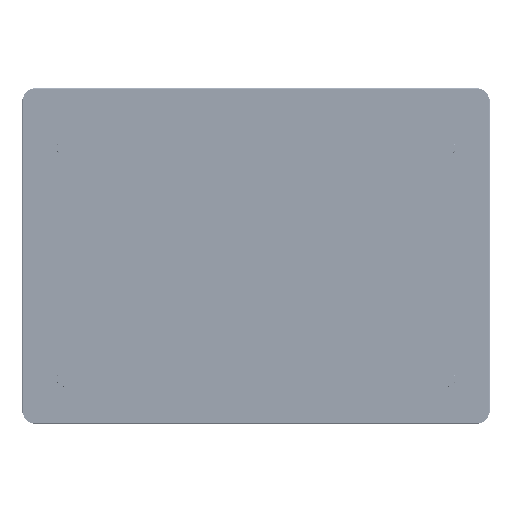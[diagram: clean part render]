
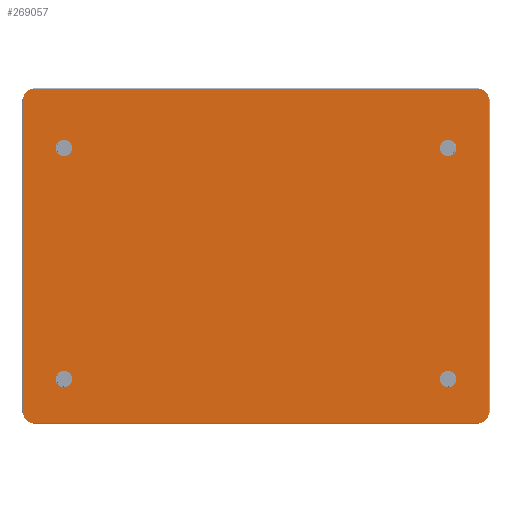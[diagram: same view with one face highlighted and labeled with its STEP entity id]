
A CAD part, top view. The second image highlights one B-rep face of the part: STEP entity #269057.
In plain terms, the highlighted planar face has unit normal (0, 0, 1).
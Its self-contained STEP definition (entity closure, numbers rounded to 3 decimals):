
#268338=CARTESIAN_POINT('',(-135.7,-95.7,0.));
#268339=DIRECTION('',(0.,0.,1.));
#268340=DIRECTION('',(-1.,0.,0.));
#268341=AXIS2_PLACEMENT_3D('',#268338,#268339,#268340);
#268343=CARTESIAN_POINT('',(-135.7,95.7,0.));
#268344=DIRECTION('',(0.,0.,1.));
#268345=DIRECTION('',(0.,1.,0.));
#268346=AXIS2_PLACEMENT_3D('',#268343,#268344,#268345);
#268348=CARTESIAN_POINT('',(135.7,95.7,0.));
#268349=DIRECTION('',(0.,0.,1.));
#268350=DIRECTION('',(1.,0.,0.));
#268351=AXIS2_PLACEMENT_3D('',#268348,#268349,#268350);
#268353=CARTESIAN_POINT('',(135.7,-95.7,0.));
#268354=DIRECTION('',(0.,0.,1.));
#268355=DIRECTION('',(0.,-1.,0.));
#268356=AXIS2_PLACEMENT_3D('',#268353,#268354,#268355);
#268358=CARTESIAN_POINT('',(-117.,65.75,0.));
#268359=DIRECTION('',(0.,0.,1.));
#268360=DIRECTION('',(-1.,0.,0.));
#268361=AXIS2_PLACEMENT_3D('',#268358,#268359,#268360);
#268363=CARTESIAN_POINT('',(-117.,65.75,0.));
#268364=DIRECTION('',(0.,0.,1.));
#268365=DIRECTION('',(1.,0.,0.));
#268366=AXIS2_PLACEMENT_3D('',#268363,#268364,#268365);
#268368=CARTESIAN_POINT('',(117.,65.75,0.));
#268369=DIRECTION('',(0.,0.,1.));
#268370=DIRECTION('',(-1.,0.,0.));
#268371=AXIS2_PLACEMENT_3D('',#268368,#268369,#268370);
#268373=CARTESIAN_POINT('',(117.,65.75,0.));
#268374=DIRECTION('',(0.,0.,1.));
#268375=DIRECTION('',(1.,0.,0.));
#268376=AXIS2_PLACEMENT_3D('',#268373,#268374,#268375);
#268378=CARTESIAN_POINT('',(-117.,-75.,0.));
#268379=DIRECTION('',(0.,0.,1.));
#268380=DIRECTION('',(-1.,0.,0.));
#268381=AXIS2_PLACEMENT_3D('',#268378,#268379,#268380);
#268383=CARTESIAN_POINT('',(-117.,-75.,0.));
#268384=DIRECTION('',(0.,0.,1.));
#268385=DIRECTION('',(1.,0.,0.));
#268386=AXIS2_PLACEMENT_3D('',#268383,#268384,#268385);
#268388=CARTESIAN_POINT('',(117.,-75.,0.));
#268389=DIRECTION('',(0.,0.,1.));
#268390=DIRECTION('',(-1.,0.,0.));
#268391=AXIS2_PLACEMENT_3D('',#268388,#268389,#268390);
#268393=CARTESIAN_POINT('',(117.,-75.,0.));
#268394=DIRECTION('',(0.,0.,1.));
#268395=DIRECTION('',(1.,0.,0.));
#268396=AXIS2_PLACEMENT_3D('',#268393,#268394,#268395);
#268411=DIRECTION('',(1.,0.,0.));
#268412=VECTOR('',#268411,271.4);
#268413=CARTESIAN_POINT('',(-135.7,-101.7,0.));
#268414=LINE('',#268413,#268412);
#268561=DIRECTION('',(0.,1.,0.));
#268562=VECTOR('',#268561,191.4);
#268563=CARTESIAN_POINT('',(141.7,-95.7,0.));
#268564=LINE('',#268563,#268562);
#268587=DIRECTION('',(-1.,0.,0.));
#268588=VECTOR('',#268587,271.4);
#268589=CARTESIAN_POINT('',(135.7,101.7,0.));
#268590=LINE('',#268589,#268588);
#268737=DIRECTION('',(0.,-1.,0.));
#268738=VECTOR('',#268737,191.4);
#268739=CARTESIAN_POINT('',(-141.7,95.7,0.));
#268740=LINE('',#268739,#268738);
#268870=CARTESIAN_POINT('',(-135.7,-101.7,0.));
#268871=CARTESIAN_POINT('',(135.7,-101.7,0.));
#268872=VERTEX_POINT('',#268870);
#268873=VERTEX_POINT('',#268871);
#268882=CARTESIAN_POINT('',(135.7,101.7,0.));
#268883=CARTESIAN_POINT('',(-135.7,101.7,0.));
#268884=VERTEX_POINT('',#268882);
#268885=VERTEX_POINT('',#268883);
#268890=CARTESIAN_POINT('',(-119.75,65.75,0.));
#268891=CARTESIAN_POINT('',(-114.25,65.75,0.));
#268892=VERTEX_POINT('',#268890);
#268893=VERTEX_POINT('',#268891);
#268894=CARTESIAN_POINT('',(114.25,65.75,0.));
#268895=CARTESIAN_POINT('',(119.75,65.75,0.));
#268896=VERTEX_POINT('',#268894);
#268897=VERTEX_POINT('',#268895);
#268898=CARTESIAN_POINT('',(-120.,-75.,0.));
#268899=CARTESIAN_POINT('',(-114.,-75.,0.));
#268900=VERTEX_POINT('',#268898);
#268901=VERTEX_POINT('',#268899);
#268902=CARTESIAN_POINT('',(114.,-75.,0.));
#268903=CARTESIAN_POINT('',(120.,-75.,0.));
#268904=VERTEX_POINT('',#268902);
#268905=VERTEX_POINT('',#268903);
#268930=CARTESIAN_POINT('',(-141.7,95.7,0.));
#268931=CARTESIAN_POINT('',(-141.7,-95.7,0.));
#268932=VERTEX_POINT('',#268930);
#268933=VERTEX_POINT('',#268931);
#268942=CARTESIAN_POINT('',(141.7,-95.7,0.));
#268943=CARTESIAN_POINT('',(141.7,95.7,0.));
#268944=VERTEX_POINT('',#268942);
#268945=VERTEX_POINT('',#268943);
#269010=CARTESIAN_POINT('',(0.,0.,0.));
#269011=DIRECTION('',(0.,0.,1.));
#269012=DIRECTION('',(1.,0.,0.));
#269013=AXIS2_PLACEMENT_3D('',#269010,#269011,#269012);
#269014=PLANE('',#269013);
#269016=ORIENTED_EDGE('',*,*,#269015,.F.);
#269018=ORIENTED_EDGE('',*,*,#269017,.F.);
#269020=ORIENTED_EDGE('',*,*,#269019,.F.);
#269022=ORIENTED_EDGE('',*,*,#269021,.F.);
#269024=ORIENTED_EDGE('',*,*,#269023,.F.);
#269026=ORIENTED_EDGE('',*,*,#269025,.F.);
#269028=ORIENTED_EDGE('',*,*,#269027,.F.);
#269030=ORIENTED_EDGE('',*,*,#269029,.F.);
#269031=EDGE_LOOP('',(#269016,#269018,#269020,#269022,#269024,#269026,#269028,
#269030));
#269032=FACE_OUTER_BOUND('',#269031,.F.);
#269034=ORIENTED_EDGE('',*,*,#269033,.T.);
#269036=ORIENTED_EDGE('',*,*,#269035,.T.);
#269037=EDGE_LOOP('',(#269034,#269036));
#269038=FACE_BOUND('',#269037,.F.);
#269040=ORIENTED_EDGE('',*,*,#269039,.T.);
#269042=ORIENTED_EDGE('',*,*,#269041,.T.);
#269043=EDGE_LOOP('',(#269040,#269042));
#269044=FACE_BOUND('',#269043,.F.);
#269046=ORIENTED_EDGE('',*,*,#269045,.T.);
#269048=ORIENTED_EDGE('',*,*,#269047,.T.);
#269049=EDGE_LOOP('',(#269046,#269048));
#269050=FACE_BOUND('',#269049,.F.);
#269052=ORIENTED_EDGE('',*,*,#269051,.T.);
#269054=ORIENTED_EDGE('',*,*,#269053,.T.);
#269055=EDGE_LOOP('',(#269052,#269054));
#269056=FACE_BOUND('',#269055,.F.);
#268342=CIRCLE('',#268341,6.);
#268347=CIRCLE('',#268346,6.);
#268352=CIRCLE('',#268351,6.);
#268357=CIRCLE('',#268356,6.);
#268362=CIRCLE('',#268361,2.75);
#268367=CIRCLE('',#268366,2.75);
#268372=CIRCLE('',#268371,2.75);
#268377=CIRCLE('',#268376,2.75);
#268382=CIRCLE('',#268381,3.);
#268387=CIRCLE('',#268386,3.);
#268392=CIRCLE('',#268391,3.);
#268397=CIRCLE('',#268396,3.);
#269015=EDGE_CURVE('',#268933,#268872,#268342,.T.);
#269017=EDGE_CURVE('',#268932,#268933,#268740,.T.);
#269019=EDGE_CURVE('',#268885,#268932,#268347,.T.);
#269021=EDGE_CURVE('',#268884,#268885,#268590,.T.);
#269023=EDGE_CURVE('',#268945,#268884,#268352,.T.);
#269025=EDGE_CURVE('',#268944,#268945,#268564,.T.);
#269027=EDGE_CURVE('',#268873,#268944,#268357,.T.);
#269029=EDGE_CURVE('',#268872,#268873,#268414,.T.);
#269033=EDGE_CURVE('',#268892,#268893,#268362,.T.);
#269035=EDGE_CURVE('',#268893,#268892,#268367,.T.);
#269039=EDGE_CURVE('',#268896,#268897,#268372,.T.);
#269041=EDGE_CURVE('',#268897,#268896,#268377,.T.);
#269045=EDGE_CURVE('',#268900,#268901,#268382,.T.);
#269047=EDGE_CURVE('',#268901,#268900,#268387,.T.);
#269051=EDGE_CURVE('',#268904,#268905,#268392,.T.);
#269053=EDGE_CURVE('',#268905,#268904,#268397,.T.);
#269057=ADVANCED_FACE('',(#269032,#269038,#269044,#269050,#269056),#269014,.T.);
